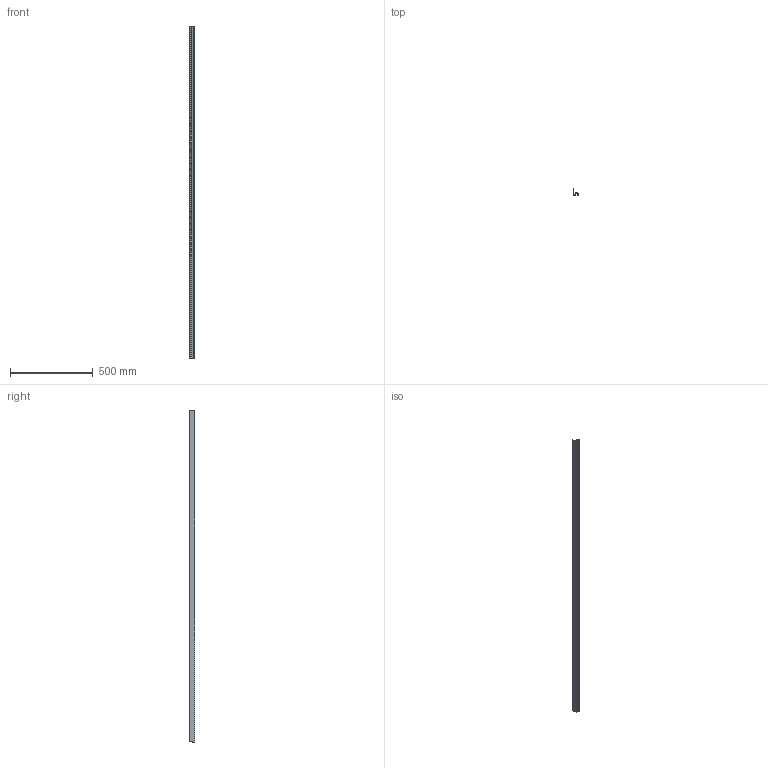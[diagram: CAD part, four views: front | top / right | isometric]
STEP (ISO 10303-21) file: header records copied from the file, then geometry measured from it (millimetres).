
FILE_DESCRIPTION (( 'STEP AP203' ), '1' );
FILE_NAME ('M22C.STEP', '2018-06-19T13:37:31', ( 'Michael Moliner' ), ( '' ), 'SwSTEP 2.0', 'SolidWorks 2018', '' );
FILE_SCHEMA (( 'CONFIG_CONTROL_DESIGN' ));
Length unit declared in the file: inch
Products named in the file (2): M22C
Bounding box: 25.4 x 33.34 x 2000 mm (x, y, z)
Volume: 82950.2 mm3; surface area: 328690.4 mm2
Topology: 1 solids, 1 shells, 24 faces, 66 edges, 44 vertices
Faces by surface type: cylinder 12, plane 12
Entity records: 931 total; most frequent: DIRECTION 142, CARTESIAN_POINT 136, ORIENTED_EDGE 132, EDGE_CURVE 66, AXIS2_PLACEMENT_3D 50, VERTEX_POINT 44, VECTOR 42, LINE 42
